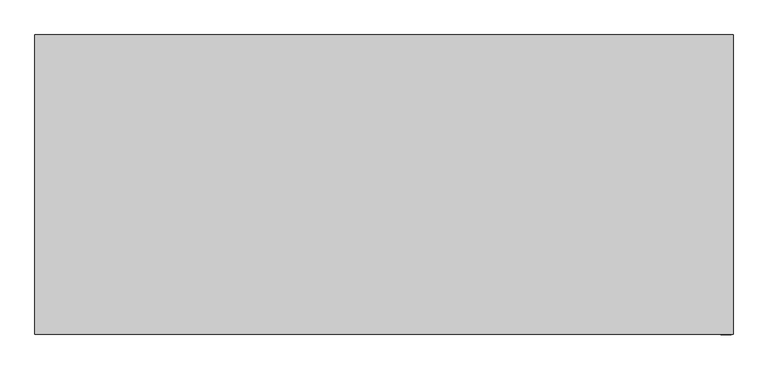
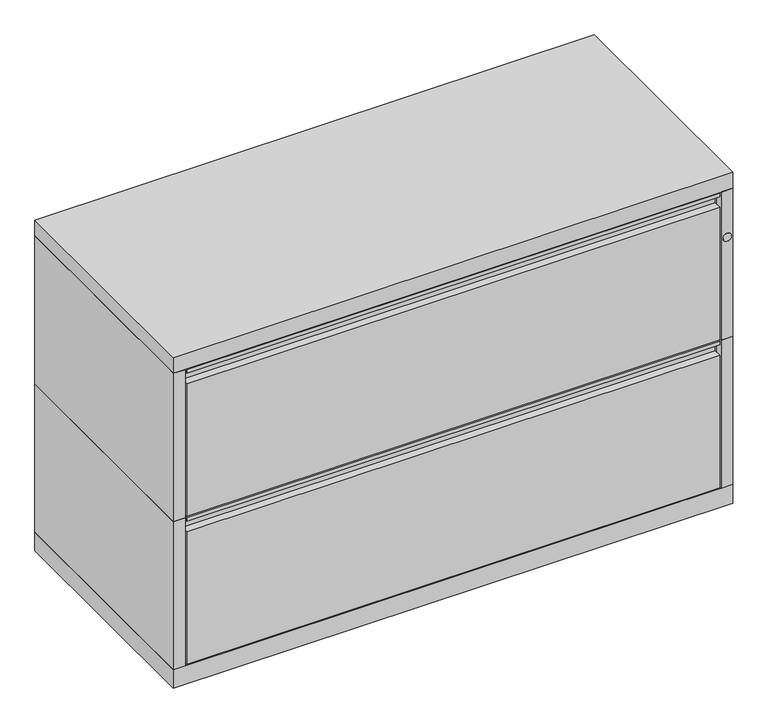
"""IFC4 building model written with IfcOpenShell, lengths in millimetres: furniture geometry, HermanMiller_MeridianFiling_26_Standard-PullFreeStandingLateralFile : 2 11 3/4H x 18D x 42W."""

from ifc_helpers import new_model, si_unit, point, frame, frame_2d, origin, origin_with_axes, place, context, project, spatial, polyline, circle_curve, trimmed, segment, composite_curve, outline, extrude, source, transform, mapped, element, save


def furniture_e015404a(model_context):
    return source(origin(), model_context, "Body", "SweptSolid", [
        extrude(outline(polyline([(-228.6, 633.4252), (-211.9376, 633.4252), (-211.9376, 338.1375), (-228.6, 338.1375), (-228.6, 605.2439), (-213.4616, 605.2439), (-213.4616, 631.8885), (-227.076, 631.8885), (-227.076, 627.0625), (-228.6, 627.0625), (-228.6, 633.4252)])), frame((-508.0, 0.0, 0.0), z_axis=(1.0, 0.0, 0.0), x_axis=(0.0, 1.0, 0.0)), (0.0, 0.0, 1.0), 1016.0),
        extrude(outline(polyline([(533.4, 228.6), (533.4, -228.6), (511.175, -228.6), (511.175, -211.9376), (-511.175, -211.9376), (-511.175, -228.6), (-533.4, -228.6), (-533.4, 228.6), (533.4, 228.6)])), frame((0.0, 0.0, 336.55), z_axis=(0.0, 0.0, 1.0), x_axis=(1.0, 0.0, 0.0)), (0.0, 0.0, 1.0), 298.45),
        extrude(outline(polyline([(-228.6, 334.9752), (-211.9376, 334.9752), (-211.9376, 39.6875), (-228.6, 39.6875), (-228.6, 306.7939), (-213.4616, 306.7939), (-213.4616, 333.4385), (-227.076, 333.4385), (-227.076, 328.6125), (-228.6, 328.6125), (-228.6, 334.9752)])), frame((-508.0, 0.0, 0.0), z_axis=(1.0, 0.0, 0.0), x_axis=(0.0, 1.0, 0.0)), (0.0, 0.0, 1.0), 1016.0),
        extrude(outline(polyline([(533.4, 228.6), (533.4, -228.6), (511.175, -228.6), (511.175, -211.9376), (-511.175, -211.9376), (-511.175, -228.6), (-533.4, -228.6), (-533.4, 228.6), (533.4, 228.6)])), frame((0.0, 0.0, 38.1), z_axis=(0.0, 0.0, 1.0), x_axis=(1.0, 0.0, 0.0)), (0.0, 0.0, 1.0), 298.45),
        extrude(outline(polyline([(533.4, 228.6), (533.4, -228.6), (-533.4, -228.6), (-533.4, 228.6), (533.4, 228.6)])), frame((0.0, 0.0, 635.0), z_axis=(0.0, 0.0, 1.0), x_axis=(1.0, 0.0, 0.0)), (0.0, 0.0, 1.0), 31.75),
        extrude(outline(polyline([(533.4, 228.6), (533.4, -228.6), (-533.4, -228.6), (-533.4, 228.6), (533.4, 228.6)])), origin_with_axes(), (0.0, 0.0, 1.0), 38.1),
        extrude(outline(composite_curve([segment(trimmed(circle_curve(frame_2d((540.639, 522.2748)), 8.001), [point((540.639, 530.2758))], [point((540.639, 514.2738))], False, "CARTESIAN"), True, "CONTINUOUS"), segment(trimmed(circle_curve(frame_2d((540.639, 522.2748)), 8.001), [point((540.639, 514.2738))], [point((540.639, 530.2758))], False, "CARTESIAN"), True, "CONTINUOUS")], self_intersect=False)), frame((0.0, -229.39502, 0.0), z_axis=(0.0, 1.0, 0.0), x_axis=(0.0, 0.0, 1.0)), (0.0, 0.0, 1.0), 0.79502),
    ])


if __name__ == "__main__":
    model = new_model("IFC4")
    model_context = context("Model", 3, world=origin())
    ifc_project = project(units=[si_unit("LENGTHUNIT", "METRE", prefix="MILLI")], contexts=[model_context])
    site = spatial("IfcSite", under=ifc_project)
    building = spatial("IfcBuilding", under=site)
    placement = place(None, origin())
    furniture_shape = furniture_e015404a(model_context)
    element("IfcFurniture", 1, ObjectType="HermanMiller_MeridianFiling_26_Standard-PullFreeStandingLateralFile : 2 11 3/4H x 18D x 42W", at=placement, inside=building, context=model_context, shape_type="MappedRepresentation", body=[
        mapped(furniture_shape, transform((0.0, 0.0, 0.0), x_axis=(1.0, 0.0, 0.0), y_axis=(0.0, 1.0, 0.0), z_axis=(0.0, 0.0, 1.0))),
    ])
    save(model, "model.ifc")
